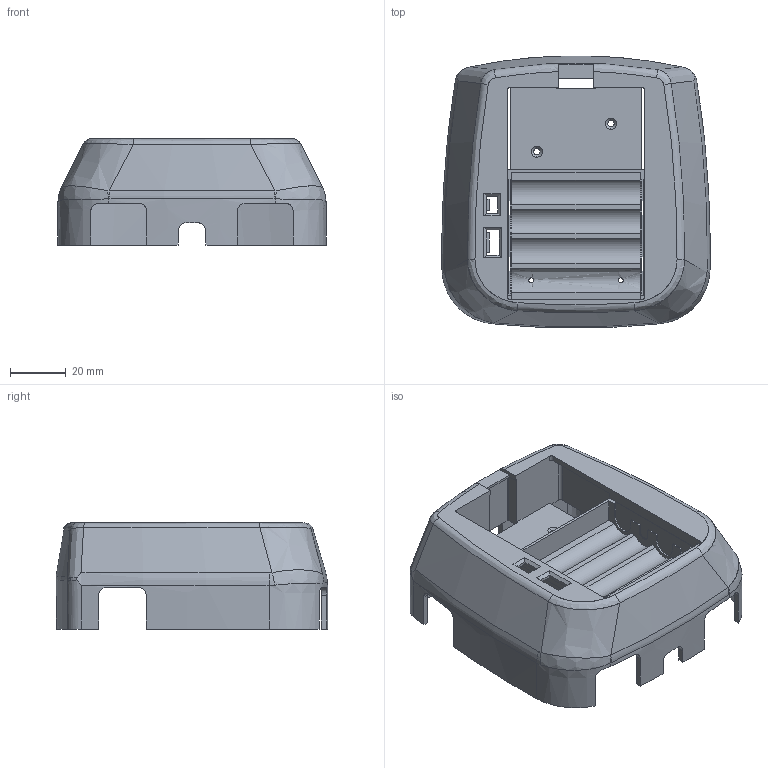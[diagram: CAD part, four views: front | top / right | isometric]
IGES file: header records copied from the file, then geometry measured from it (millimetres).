
Global section: file name: Filename.iges; native system: Open CASCADE 7.5; preprocessor: Open CASCADE IGES processor 7.5; date: 20210414.164134; units: millimetre
Bounding box: 95.88 x 97.2 x 38 mm (x, y, z)
Surface area: 48509 mm2 (no closed solid volume)
Topology: 0 solids, 0 shells, 390 faces, 2234 edges, 2234 vertices
Faces by surface type: bspline 272, revolution 118
